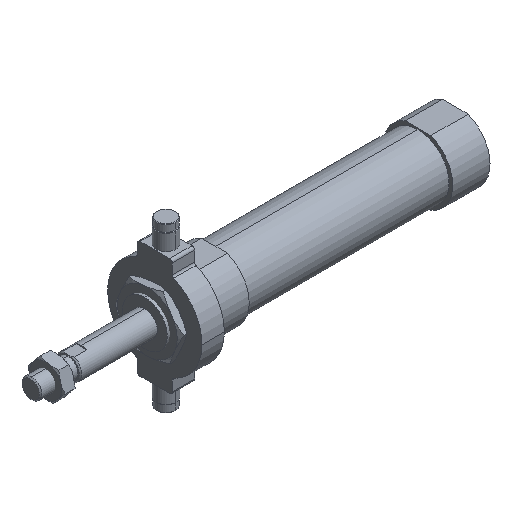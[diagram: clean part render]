
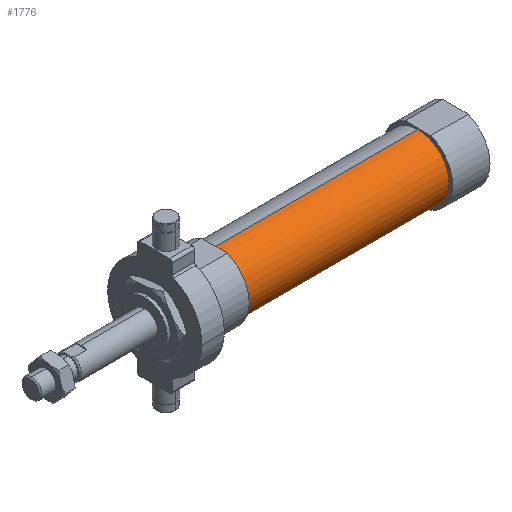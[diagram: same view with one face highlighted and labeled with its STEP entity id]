
A CAD part, isometric view. The second image highlights one B-rep face of the part: STEP entity #1776.
In plain terms, the highlighted cylindrical face has radius 12.5 mm (diameter 25 mm), a partial arc.
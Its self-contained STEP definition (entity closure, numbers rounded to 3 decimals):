
#85 = CIRCLE ( 'NONE', #657, 12.5 ) ;
#106 = ORIENTED_EDGE ( 'NONE', *, *, #1553, .T. ) ;
#155 = EDGE_LOOP ( 'NONE', ( #856, #106, #2577, #4052 ) ) ;
#218 = AXIS2_PLACEMENT_3D ( 'NONE', #1822, #3115, #1524 ) ;
#272 = VERTEX_POINT ( 'NONE', #2446 ) ;
#323 = VERTEX_POINT ( 'NONE', #574 ) ;
#365 = DIRECTION ( 'NONE',  ( -1., 0., 0. ) ) ;
#469 = EDGE_CURVE ( 'NONE', #923, #272, #3713, .T. ) ;
#574 = CARTESIAN_POINT ( 'NONE',  ( 156., 0., -12.5 ) ) ;
#657 = AXIS2_PLACEMENT_3D ( 'NONE', #2741, #3719, #1778 ) ;
#689 = EDGE_CURVE ( 'NONE', #323, #923, #3327, .T. ) ;
#813 = LINE ( 'NONE', #2318, #2873 ) ;
#856 = ORIENTED_EDGE ( 'NONE', *, *, #689, .F. ) ;
#923 = VERTEX_POINT ( 'NONE', #2425 ) ;
#1442 = AXIS2_PLACEMENT_3D ( 'NONE', #3821, #2523, #1899 ) ;
#1524 = DIRECTION ( 'NONE',  ( 0., 0., 1. ) ) ;
#1553 = EDGE_CURVE ( 'NONE', #323, #1877, #85, .T. ) ;
#1606 = VECTOR ( 'NONE', #365, 1000. ) ;
#1745 = FACE_OUTER_BOUND ( 'NONE', #155, .T. ) ;
#1776 = ADVANCED_FACE ( 'NONE', ( #1745 ), #2656, .T. ) ;
#1778 = DIRECTION ( 'NONE',  ( 0., 0., 1. ) ) ;
#1799 = DIRECTION ( 'NONE',  ( -1., 0., 0. ) ) ;
#1822 = CARTESIAN_POINT ( 'NONE',  ( -6.469, 0., 0. ) ) ;
#1877 = VERTEX_POINT ( 'NONE', #3240 ) ;
#1899 = DIRECTION ( 'NONE',  ( 0., 0., 1. ) ) ;
#2318 = CARTESIAN_POINT ( 'NONE',  ( -6.469, 0., 12.5 ) ) ;
#2425 = CARTESIAN_POINT ( 'NONE',  ( 74., 0., -12.5 ) ) ;
#2446 = CARTESIAN_POINT ( 'NONE',  ( 74., 0., 12.5 ) ) ;
#2523 = DIRECTION ( 'NONE',  ( -1., 0., 0. ) ) ;
#2577 = ORIENTED_EDGE ( 'NONE', *, *, #3250, .T. ) ;
#2656 = CYLINDRICAL_SURFACE ( 'NONE', #218, 12.5 ) ;
#2741 = CARTESIAN_POINT ( 'NONE',  ( 156., 0., 0. ) ) ;
#2873 = VECTOR ( 'NONE', #1799, 1000. ) ;
#3115 = DIRECTION ( 'NONE',  ( -1., 0., 0. ) ) ;
#3240 = CARTESIAN_POINT ( 'NONE',  ( 156., 0., 12.5 ) ) ;
#3250 = EDGE_CURVE ( 'NONE', #1877, #272, #813, .T. ) ;
#3270 = CARTESIAN_POINT ( 'NONE',  ( -6.469, 0., -12.5 ) ) ;
#3327 = LINE ( 'NONE', #3270, #1606 ) ;
#3713 = CIRCLE ( 'NONE', #1442, 12.5 ) ;
#3719 = DIRECTION ( 'NONE',  ( -1., 0., 0. ) ) ;
#3821 = CARTESIAN_POINT ( 'NONE',  ( 74., 0., 0. ) ) ;
#4052 = ORIENTED_EDGE ( 'NONE', *, *, #469, .F. ) ;
